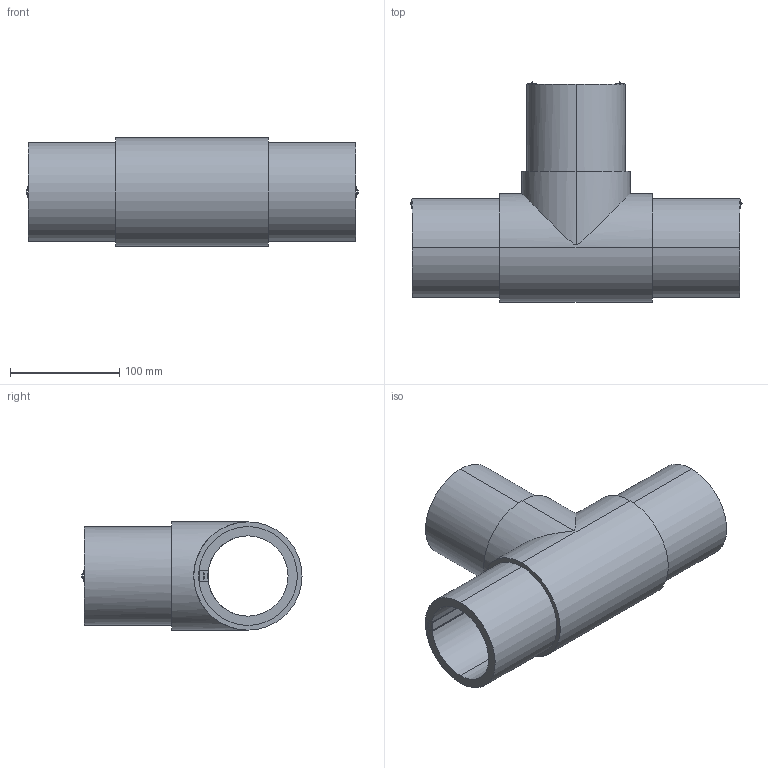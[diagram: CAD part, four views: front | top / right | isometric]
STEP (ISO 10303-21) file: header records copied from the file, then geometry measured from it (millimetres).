
FILE_DESCRIPTION (( 'STEP AP214' ), '1' );
FILE_NAME ('KP_8-90FC03.STEP', '2014-01-20T10:39:35', ( 'robinj' ), ( 'Microsoft' ), 'SwSTEP 2.0', 'SolidWorks 2014', '' );
FILE_SCHEMA (( 'AUTOMOTIVE_DESIGN' ));
Length unit declared in the file: millimetre
Products named in the file (1): KP_8-90FC03
Bounding box: 304.2 x 201.72 x 99.24 mm (x, y, z)
Volume: 1068303.6 mm3; surface area: 221635.3 mm2
Topology: 1 solids, 3 shells, 87 faces, 225 edges, 146 vertices
Faces by surface type: plane 37, cylinder 34, torus 16
Entity records: 3762 total; most frequent: CARTESIAN_POINT 896, DIRECTION 499, ORIENTED_EDGE 450, EDGE_CURVE 225, AXIS2_PLACEMENT_3D 201, VERTEX_POINT 146, CIRCLE 113, EDGE_LOOP 101
